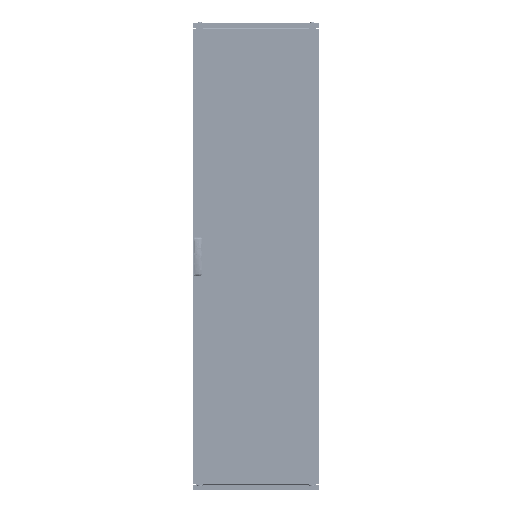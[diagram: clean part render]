
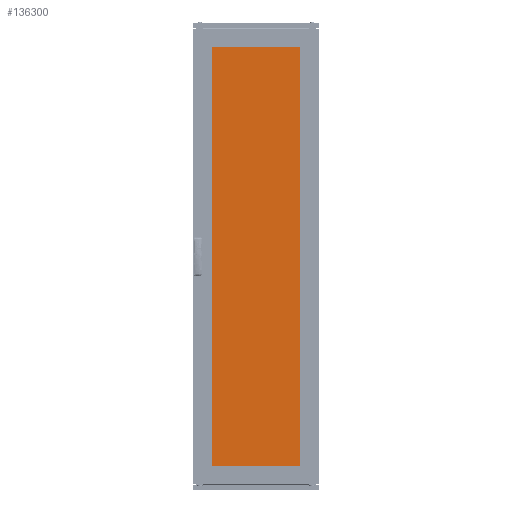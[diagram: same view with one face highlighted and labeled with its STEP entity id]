
A CAD part, top view. The second image highlights one B-rep face of the part: STEP entity #136300.
In plain terms, the highlighted planar face has unit normal (0, 0, 1).
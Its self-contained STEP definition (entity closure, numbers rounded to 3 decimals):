
#6818 = PLANE ( 'NONE',  #173247 ) ;
#9126 = CARTESIAN_POINT ( 'NONE',  ( 0., 0., 5. ) ) ;
#15699 = CARTESIAN_POINT ( 'NONE',  ( -230., -1010., 5. ) ) ;
#27608 = EDGE_CURVE ( 'NONE', #67103, #196960, #160777, .T. ) ;
#28478 = EDGE_CURVE ( 'NONE', #185475, #71914, #228990, .T. ) ;
#40978 = CARTESIAN_POINT ( 'NONE',  ( 230., 1010., 5. ) ) ;
#46375 = DIRECTION ( 'NONE',  ( -1., 0., 0. ) ) ;
#56113 = VECTOR ( 'NONE', #144383, 1000. ) ;
#58453 = ORIENTED_EDGE ( 'NONE', *, *, #97488, .T. ) ;
#67103 = VERTEX_POINT ( 'NONE', #178543 ) ;
#71914 = VERTEX_POINT ( 'NONE', #15699 ) ;
#80600 = DIRECTION ( 'NONE',  ( -1., 0., 0. ) ) ;
#81755 = DIRECTION ( 'NONE',  ( 0., 0., -1. ) ) ;
#92160 = DIRECTION ( 'NONE',  ( 1., 0., 0. ) ) ;
#97488 = EDGE_CURVE ( 'NONE', #196960, #185475, #170615, .T. ) ;
#98013 = VECTOR ( 'NONE', #46375, 1000. ) ;
#102517 = CARTESIAN_POINT ( 'NONE',  ( -230., -1010., 5. ) ) ;
#108309 = ORIENTED_EDGE ( 'NONE', *, *, #130257, .T. ) ;
#108888 = EDGE_LOOP ( 'NONE', ( #112095, #58453, #228235, #108309 ) ) ;
#109756 = LINE ( 'NONE', #182388, #138266 ) ;
#112095 = ORIENTED_EDGE ( 'NONE', *, *, #27608, .T. ) ;
#130257 = EDGE_CURVE ( 'NONE', #71914, #67103, #109756, .T. ) ;
#136300 = ADVANCED_FACE ( 'NONE', ( #169669 ), #6818, .F. ) ;
#138266 = VECTOR ( 'NONE', #92160, 1000. ) ;
#142076 = CARTESIAN_POINT ( 'NONE',  ( 230., -1010., 5. ) ) ;
#144383 = DIRECTION ( 'NONE',  ( 0., 1., 0. ) ) ;
#148112 = CARTESIAN_POINT ( 'NONE',  ( -230., 1010., 5. ) ) ;
#160777 = LINE ( 'NONE', #142076, #56113 ) ;
#169669 = FACE_OUTER_BOUND ( 'NONE', #108888, .T. ) ;
#170615 = LINE ( 'NONE', #205749, #98013 ) ;
#173247 = AXIS2_PLACEMENT_3D ( 'NONE', #9126, #81755, #80600 ) ;
#173992 = DIRECTION ( 'NONE',  ( 0., -1., 0. ) ) ;
#178543 = CARTESIAN_POINT ( 'NONE',  ( 230., -1010., 5. ) ) ;
#182388 = CARTESIAN_POINT ( 'NONE',  ( -230., -1010., 5. ) ) ;
#185475 = VERTEX_POINT ( 'NONE', #148112 ) ;
#191106 = VECTOR ( 'NONE', #173992, 1000. ) ;
#196960 = VERTEX_POINT ( 'NONE', #40978 ) ;
#205749 = CARTESIAN_POINT ( 'NONE',  ( -230., 1010., 5. ) ) ;
#228235 = ORIENTED_EDGE ( 'NONE', *, *, #28478, .T. ) ;
#228990 = LINE ( 'NONE', #102517, #191106 ) ;
